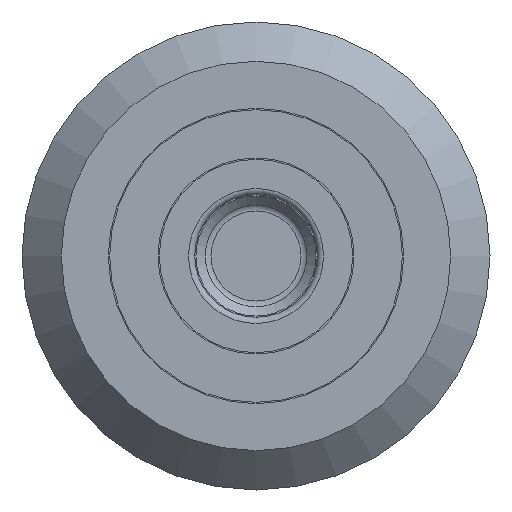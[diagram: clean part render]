
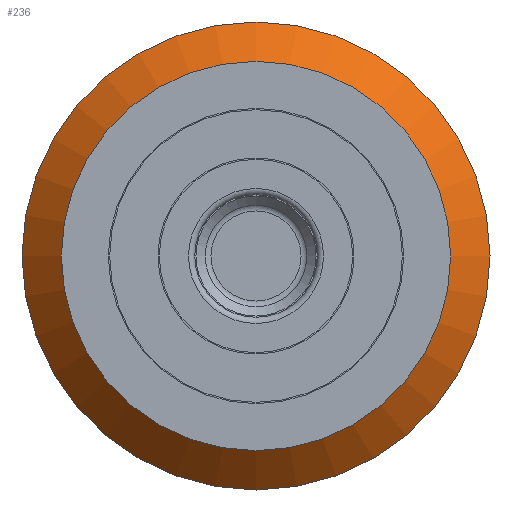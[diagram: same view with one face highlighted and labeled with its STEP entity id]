
A CAD part, left-side view. The second image highlights one B-rep face of the part: STEP entity #236.
In plain terms, the highlighted conical face has half-angle 45 degrees and reference radius 22.898 mm.
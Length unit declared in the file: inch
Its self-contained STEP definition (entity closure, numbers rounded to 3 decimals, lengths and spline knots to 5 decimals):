
#236 = ADVANCED_FACE( '', ( #498, #499 ), #500, .T. );
#498 = FACE_BOUND( '', #764, .T. );
#499 = FACE_OUTER_BOUND( '', #765, .T. );
#500 = CONICAL_SURFACE( '', #766, 0.9015, 0.785 );
#764 = EDGE_LOOP( '', ( #1164 ) );
#765 = EDGE_LOOP( '', ( #1165 ) );
#766 = AXIS2_PLACEMENT_3D( '', #1166, #1167, #1168 );
#1164 = ORIENTED_EDGE( '', *, *, #1379, .T. );
#1165 = ORIENTED_EDGE( '', *, *, #1363, .F. );
#1166 = CARTESIAN_POINT( '', ( -0.161, 0., 0. ) );
#1167 = DIRECTION( '', ( 1., 0., 0. ) );
#1168 = DIRECTION( '', ( 0., 1., 0. ) );
#1363 = EDGE_CURVE( '', #1572, #1572, #1573, .T. );
#1379 = EDGE_CURVE( '', #1596, #1596, #1597, .T. );
#1572 = VERTEX_POINT( '', #1900 );
#1573 = CIRCLE( '', #1901, 0.9015 );
#1596 = VERTEX_POINT( '', #1936 );
#1597 = CIRCLE( '', #1937, 0.75 );
#1900 = CARTESIAN_POINT( '', ( -0.161, 0.9015, 0. ) );
#1901 = AXIS2_PLACEMENT_3D( '', #2161, #2162, #2163 );
#1936 = CARTESIAN_POINT( '', ( -0.3125, 0.75, 0. ) );
#1937 = AXIS2_PLACEMENT_3D( '', #2185, #2186, #2187 );
#2161 = CARTESIAN_POINT( '', ( -0.161, 0., 0. ) );
#2162 = DIRECTION( '', ( 1., 0., 0. ) );
#2163 = DIRECTION( '', ( 0., 1., 0. ) );
#2185 = CARTESIAN_POINT( '', ( -0.3125, 0., 0. ) );
#2186 = DIRECTION( '', ( 1., 0., 0. ) );
#2187 = DIRECTION( '', ( 0., 1., 0. ) );
